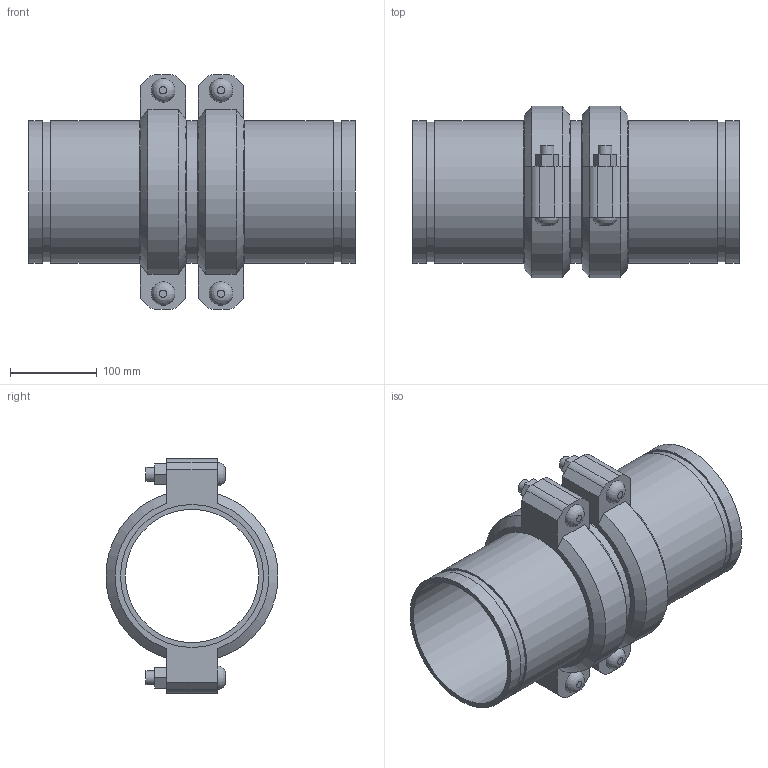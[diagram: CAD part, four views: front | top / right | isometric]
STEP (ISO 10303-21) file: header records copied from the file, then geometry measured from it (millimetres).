
FILE_DESCRIPTION(/* description */ ('VIC EXPANSION JOINT 2 COUPLINGS EXPANDED STYLE 155 (OGS)','CAx-IF Rec.Pracs.---Representation and Presentation of Product Manufacturing Information (PMI)---4.0---2014-10-13'),/* implementation_level */ '2;1');
FILE_NAME(/* name */ 'C:\Users\kkamble\AppData\Roaming\Autodesk\ApplicationPlugins\Victaulic.Temp\A706\Victaulic_IPS_Expansion Joint_Expanded_2 Couplings_Style 155 (OGS)_06.0 (165.1) (150).stp',/* time_stamp */ '2021-06-26T23:56:50+02:00',/* author */ ('kkamble'),/* organization */ ('Victaulic'),/* preprocessor_version */ 'ST-DEVELOPER v17.2',/* originating_system */ 'Autodesk Inventor 2019',/* authorisation */ '');
FILE_SCHEMA (('AP242_MANAGED_MODEL_BASED_3D_ENGINEERING_MIM_LF { 1 0 10303 442 1 1 4 }'));
Length unit declared in the file: inch
Products named in the file (4): 155-06.0 (165.1); Nipple-06.0 (165.1); Nipple-06.0 (165.1)_1; 075-06.0 (165.1)
Assembly tree (5 placements, depth 2):
  155-06.0 (165.1)
    Nipple-06.0 (165.1)  x2
    Nipple-06.0 (165.1)_1
    075-06.0 (165.1)  x2
Bounding box: 377.19 x 198.42 x 270.76 mm (x, y, z)
Volume: 2382580.7 mm3; surface area: 618114.4 mm2
Topology: 5 solids, 9 shells, 150 faces, 356 edges, 252 vertices
Faces by surface type: plane 90, cylinder 48, cone 8, bspline 4
Full cylindrical faces by diameter (mm): 15.875 x8, 17.424 x4, 153.975 x3, 158.75 x2, 160.782 x6, 165.1 x13
Entity records: 2753 total; most frequent: CARTESIAN_POINT 489, DIRECTION 453, ORIENTED_EDGE 386, EDGE_CURVE 193, AXIS2_PLACEMENT_3D 180, VERTEX_POINT 138, EDGE_LOOP 107, LINE 93
